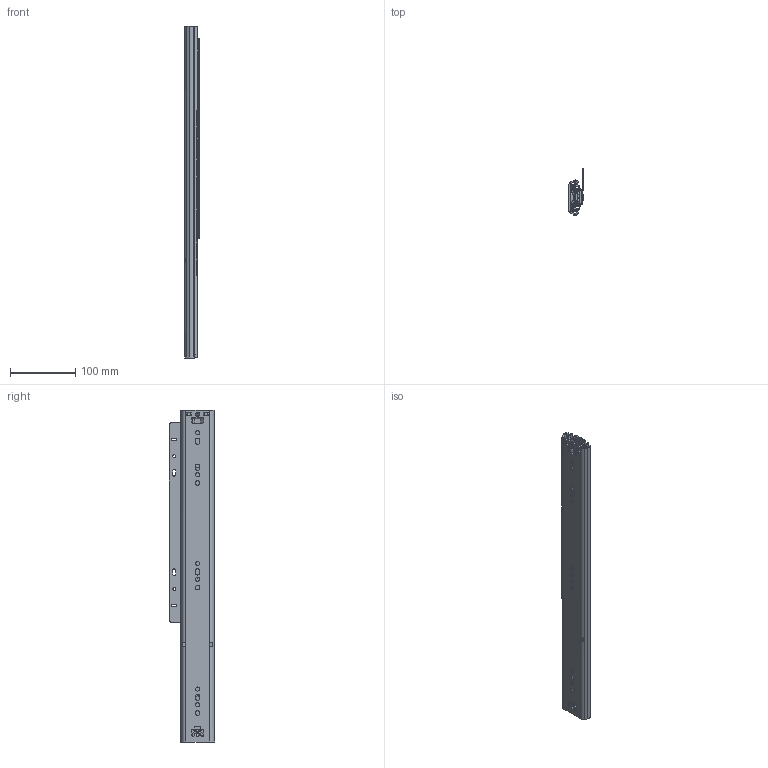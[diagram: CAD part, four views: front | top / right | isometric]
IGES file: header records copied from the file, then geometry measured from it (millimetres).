
Global section: file name: No Iges File Name specified; native system: Autodesk Inventor 2012; preprocessor: AutoDesk Inventor Iges Exporter R2012; author: HV83751; date: 20130708.090130; units: inch
Bounding box: 22.61 x 70.18 x 508.01 mm (x, y, z)
Surface area: 240304.5 mm2
Topology: 6 solids, 31 shells, 1519 faces, 4465 edges, 2876 vertices
Faces by surface type: plane 764, revolution 400, cylinder 302, bspline 44, torus 9
